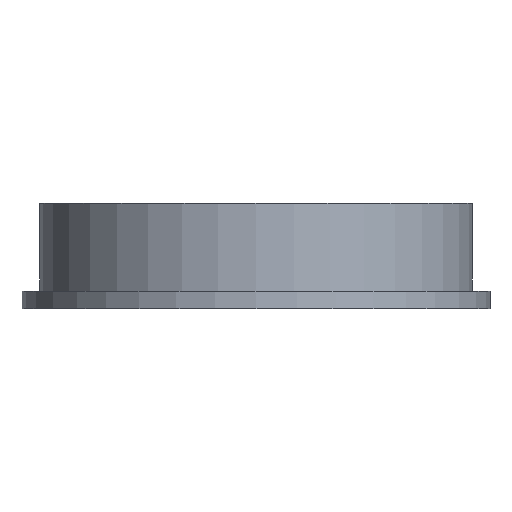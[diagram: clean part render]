
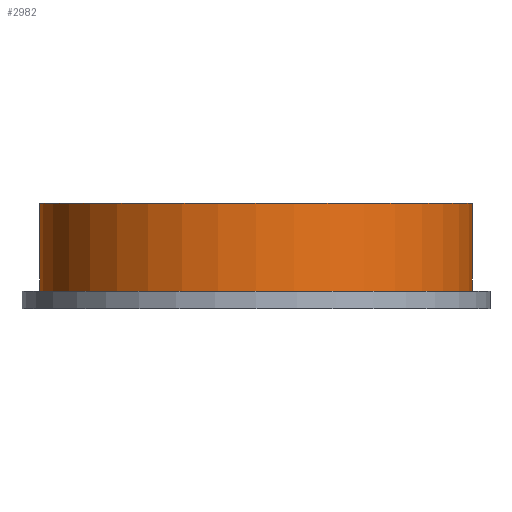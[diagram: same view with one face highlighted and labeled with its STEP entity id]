
A CAD part, front view. The second image highlights one B-rep face of the part: STEP entity #2982.
In plain terms, the highlighted cylindrical face has radius 37 mm (diameter 74 mm), a partial arc.
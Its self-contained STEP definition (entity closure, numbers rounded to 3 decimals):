
#655=CARTESIAN_POINT('',(0.,0.,3.));
#656=DIRECTION('',(0.,0.,1.));
#657=DIRECTION('',(-1.,0.,0.));
#658=AXIS2_PLACEMENT_3D('',#655,#656,#657);
#717=DIRECTION('',(0.,0.,-1.));
#718=VECTOR('',#717,15.);
#719=CARTESIAN_POINT('',(37.,0.,18.));
#720=LINE('',#719,#718);
#724=DIRECTION('',(0.,0.,1.));
#725=VECTOR('',#724,15.);
#726=CARTESIAN_POINT('',(-37.,0.,3.));
#727=LINE('',#726,#725);
#1249=CARTESIAN_POINT('',(0.,0.,18.));
#1250=DIRECTION('',(0.,0.,-1.));
#1251=DIRECTION('',(1.,0.,0.));
#1252=AXIS2_PLACEMENT_3D('',#1249,#1250,#1251);
#2600=CARTESIAN_POINT('',(37.,0.,3.));
#2601=VERTEX_POINT('',#2600);
#2733=CARTESIAN_POINT('',(-37.,0.,3.));
#2734=CARTESIAN_POINT('',(-37.,0.,18.));
#2735=VERTEX_POINT('',#2733);
#2736=VERTEX_POINT('',#2734);
#2737=CARTESIAN_POINT('',(37.,0.,18.));
#2738=VERTEX_POINT('',#2737);
#2968=CARTESIAN_POINT('',(0.,0.,3.));
#2969=DIRECTION('',(0.,0.,1.));
#2970=DIRECTION('',(1.,0.,0.));
#2971=AXIS2_PLACEMENT_3D('',#2968,#2969,#2970);
#2972=CYLINDRICAL_SURFACE('',#2971,37.);
#2974=ORIENTED_EDGE('',*,*,#2973,.T.);
#2976=ORIENTED_EDGE('',*,*,#2975,.F.);
#2978=ORIENTED_EDGE('',*,*,#2977,.T.);
#2979=ORIENTED_EDGE('',*,*,#2953,.F.);
#2980=EDGE_LOOP('',(#2974,#2976,#2978,#2979));
#2981=FACE_OUTER_BOUND('',#2980,.F.);
#659=CIRCLE('',#658,37.);
#1253=CIRCLE('',#1252,37.);
#2953=EDGE_CURVE('',#2735,#2601,#659,.T.);
#2973=EDGE_CURVE('',#2735,#2736,#727,.T.);
#2975=EDGE_CURVE('',#2738,#2736,#1253,.T.);
#2977=EDGE_CURVE('',#2738,#2601,#720,.T.);
#2982=ADVANCED_FACE('',(#2981),#2972,.T.);
